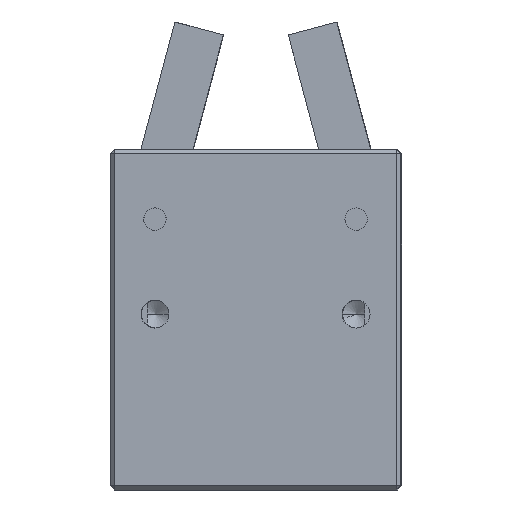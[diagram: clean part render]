
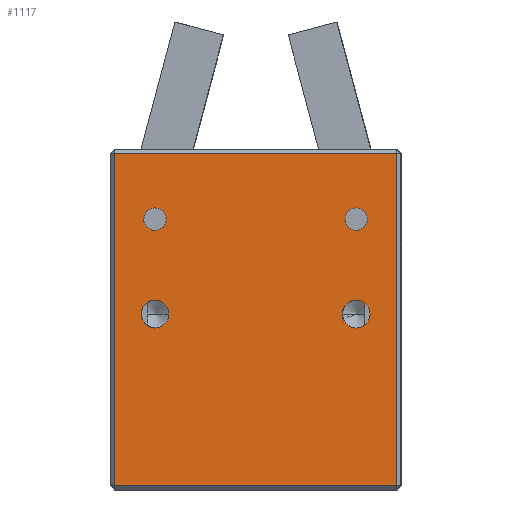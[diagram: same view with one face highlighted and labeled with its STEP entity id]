
A CAD part, left-side view. The second image highlights one B-rep face of the part: STEP entity #1117.
In plain terms, the highlighted planar face has unit normal (-1, 0.005, 0).
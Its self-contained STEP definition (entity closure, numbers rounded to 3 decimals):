
#1082 = EDGE_CURVE ( 'NONE', #13873, #13877, #9762, .T. ) ;
#1084 = ORIENTED_EDGE ( 'NONE', *, *, #1110, .T. ) ;
#1089 = ORIENTED_EDGE ( 'NONE', *, *, #1094, .T. ) ;
#1090 = ORIENTED_EDGE ( 'NONE', *, *, #1082, .F. ) ;
#1091 = EDGE_LOOP ( 'NONE', ( #1084, #1089, #1459, #1446 ) ) ;
#1094 = EDGE_CURVE ( 'NONE', #1169, #1106, #10037, .T. ) ;
#1095 = ORIENTED_EDGE ( 'NONE', *, *, #14164, .T. ) ;
#1101 = ORIENTED_EDGE ( 'NONE', *, *, #1170, .F. ) ;
#1106 = VERTEX_POINT ( 'NONE', #10123 ) ;
#1107 = ORIENTED_EDGE ( 'NONE', *, *, #1114, .T. ) ;
#1108 = ORIENTED_EDGE ( 'NONE', *, *, #13784, .T. ) ;
#1110 = EDGE_CURVE ( 'NONE', #1183, #1169, #10112, .T. ) ;
#1114 = EDGE_CURVE ( 'NONE', #14170, #14165, #10101, .T. ) ;
#1115 = EDGE_LOOP ( 'NONE', ( #1107, #1095 ) ) ;
#1117 = ADVANCED_FACE ( 'NONE', ( #10240, #10249, #10094, #10251, #10092 ), #10091, .F. ) ;
#1128 = EDGE_LOOP ( 'NONE', ( #1145, #1108 ) ) ;
#1133 = EDGE_LOOP ( 'NONE', ( #1090, #1314 ) ) ;
#1138 = EDGE_CURVE ( 'NONE', #13931, #13933, #10173, .T. ) ;
#1145 = ORIENTED_EDGE ( 'NONE', *, *, #1138, .T. ) ;
#1153 = VERTEX_POINT ( 'NONE', #10271 ) ;
#1169 = VERTEX_POINT ( 'NONE', #10386 ) ;
#1170 = EDGE_CURVE ( 'NONE', #15524, #15528, #10339, .T. ) ;
#1183 = VERTEX_POINT ( 'NONE', #10564 ) ;
#1184 = EDGE_LOOP ( 'NONE', ( #1101, #1191 ) ) ;
#1191 = ORIENTED_EDGE ( 'NONE', *, *, #15536, .F. ) ;
#1314 = ORIENTED_EDGE ( 'NONE', *, *, #13878, .F. ) ;
#1428 = EDGE_CURVE ( 'NONE', #1106, #1153, #17461, .T. ) ;
#1429 = EDGE_CURVE ( 'NONE', #1153, #1183, #17450, .T. ) ;
#1446 = ORIENTED_EDGE ( 'NONE', *, *, #1429, .T. ) ;
#1459 = ORIENTED_EDGE ( 'NONE', *, *, #1428, .T. ) ;
#9762 = CIRCLE ( 'NONE', #9968, 2.5 ) ;
#9938 = CARTESIAN_POINT ( 'NONE',  ( 0.23, 43.999, 31.5 ) ) ;
#9965 = DIRECTION ( 'NONE',  ( -0.005, -1., 0. ) ) ;
#9966 = DIRECTION ( 'NONE',  ( -1., 0.005, 0. ) ) ;
#9968 = AXIS2_PLACEMENT_3D ( 'NONE', #9938, #9966, #9965 ) ;
#10022 = DIRECTION ( 'NONE',  ( 0., 0., -1. ) ) ;
#10023 = VECTOR ( 'NONE', #10022, 1000. ) ;
#10025 = CARTESIAN_POINT ( 'NONE',  ( 0.268, 51.249, 61. ) ) ;
#10037 = LINE ( 'NONE', #10025, #10023 ) ;
#10091 = PLANE ( 'NONE',  #10128 ) ;
#10092 = FACE_OUTER_BOUND ( 'NONE', #1091, .T. ) ;
#10094 = FACE_BOUND ( 'NONE', #1133, .T. ) ;
#10098 = DIRECTION ( 'NONE',  ( 0.005, 1., 0. ) ) ;
#10101 = CIRCLE ( 'NONE', #10247, 2. ) ;
#10108 = VECTOR ( 'NONE', #10098, 1000. ) ;
#10111 = CARTESIAN_POINT ( 'NONE',  ( 0., 0., 60.25 ) ) ;
#10112 = LINE ( 'NONE', #10111, #10108 ) ;
#10123 = CARTESIAN_POINT ( 'NONE',  ( 0.268, 51.249, 0.75 ) ) ;
#10128 = AXIS2_PLACEMENT_3D ( 'NONE', #10222, #10221, #10219 ) ;
#10173 = CIRCLE ( 'NONE', #10310, 2. ) ;
#10176 = CARTESIAN_POINT ( 'NONE',  ( 0.23, 43.999, 48.5 ) ) ;
#10183 = DIRECTION ( 'NONE',  ( 1., -0.005, 0. ) ) ;
#10219 = DIRECTION ( 'NONE',  ( 0.005, 1., 0. ) ) ;
#10221 = DIRECTION ( 'NONE',  ( 1., -0.005, 0. ) ) ;
#10222 = CARTESIAN_POINT ( 'NONE',  ( 0., 0., 61. ) ) ;
#10240 = FACE_BOUND ( 'NONE', #1115, .T. ) ;
#10241 = DIRECTION ( 'NONE',  ( 0.005, 1., 0. ) ) ;
#10243 = DIRECTION ( 'NONE',  ( 1., -0.005, 0. ) ) ;
#10244 = CARTESIAN_POINT ( 'NONE',  ( 0.042, 8., 48.5 ) ) ;
#10247 = AXIS2_PLACEMENT_3D ( 'NONE', #10244, #10243, #10241 ) ;
#10249 = FACE_BOUND ( 'NONE', #1128, .T. ) ;
#10251 = FACE_BOUND ( 'NONE', #1184, .T. ) ;
#10271 = CARTESIAN_POINT ( 'NONE',  ( 0.004, 0.75, 0.75 ) ) ;
#10290 = DIRECTION ( 'NONE',  ( 0.005, 1., 0. ) ) ;
#10310 = AXIS2_PLACEMENT_3D ( 'NONE', #10176, #10183, #10290 ) ;
#10339 = CIRCLE ( 'NONE', #10470, 2.5 ) ;
#10386 = CARTESIAN_POINT ( 'NONE',  ( 0.268, 51.249, 60.25 ) ) ;
#10437 = DIRECTION ( 'NONE',  ( -0.005, -1., 0. ) ) ;
#10466 = DIRECTION ( 'NONE',  ( -1., 0.005, 0. ) ) ;
#10468 = CARTESIAN_POINT ( 'NONE',  ( 0.042, 8., 31.5 ) ) ;
#10470 = AXIS2_PLACEMENT_3D ( 'NONE', #10468, #10466, #10437 ) ;
#10564 = CARTESIAN_POINT ( 'NONE',  ( 0.004, 0.75, 60.25 ) ) ;
#13784 = EDGE_CURVE ( 'NONE', #13933, #13931, #25869, .T. ) ;
#13873 = VERTEX_POINT ( 'NONE', #26047 ) ;
#13877 = VERTEX_POINT ( 'NONE', #26043 ) ;
#13878 = EDGE_CURVE ( 'NONE', #13877, #13873, #26031, .T. ) ;
#13931 = VERTEX_POINT ( 'NONE', #26122 ) ;
#13933 = VERTEX_POINT ( 'NONE', #26166 ) ;
#14164 = EDGE_CURVE ( 'NONE', #14165, #14170, #26703, .T. ) ;
#14165 = VERTEX_POINT ( 'NONE', #26704 ) ;
#14170 = VERTEX_POINT ( 'NONE', #26739 ) ;
#15524 = VERTEX_POINT ( 'NONE', #31008 ) ;
#15528 = VERTEX_POINT ( 'NONE', #31102 ) ;
#15536 = EDGE_CURVE ( 'NONE', #15528, #15524, #31137, .T. ) ;
#17447 = DIRECTION ( 'NONE',  ( 0., 0., 1. ) ) ;
#17448 = VECTOR ( 'NONE', #17447, 1000. ) ;
#17449 = CARTESIAN_POINT ( 'NONE',  ( 0.004, 0.75, 61. ) ) ;
#17450 = LINE ( 'NONE', #17449, #17448 ) ;
#17454 = DIRECTION ( 'NONE',  ( -0.005, -1., 0. ) ) ;
#17455 = VECTOR ( 'NONE', #17454, 1000. ) ;
#17456 = CARTESIAN_POINT ( 'NONE',  ( 0., 0., 0.75 ) ) ;
#17461 = LINE ( 'NONE', #17456, #17455 ) ;
#25859 = DIRECTION ( 'NONE',  ( 0.005, 1., 0. ) ) ;
#25860 = DIRECTION ( 'NONE',  ( 1., -0.005, 0. ) ) ;
#25861 = CARTESIAN_POINT ( 'NONE',  ( 0.23, 43.999, 48.5 ) ) ;
#25862 = AXIS2_PLACEMENT_3D ( 'NONE', #25861, #25860, #25859 ) ;
#25869 = CIRCLE ( 'NONE', #25862, 2. ) ;
#26024 = DIRECTION ( 'NONE',  ( -0.005, -1., 0. ) ) ;
#26025 = DIRECTION ( 'NONE',  ( -1., 0.005, 0. ) ) ;
#26026 = CARTESIAN_POINT ( 'NONE',  ( 0.23, 43.999, 31.5 ) ) ;
#26027 = AXIS2_PLACEMENT_3D ( 'NONE', #26026, #26025, #26024 ) ;
#26031 = CIRCLE ( 'NONE', #26027, 2.5 ) ;
#26043 = CARTESIAN_POINT ( 'NONE',  ( 0.243, 46.499, 31.5 ) ) ;
#26047 = CARTESIAN_POINT ( 'NONE',  ( 0.217, 41.499, 31.5 ) ) ;
#26122 = CARTESIAN_POINT ( 'NONE',  ( 0.241, 45.999, 48.5 ) ) ;
#26166 = CARTESIAN_POINT ( 'NONE',  ( 0.22, 41.999, 48.5 ) ) ;
#26692 = DIRECTION ( 'NONE',  ( 1., -0.005, 0. ) ) ;
#26693 = AXIS2_PLACEMENT_3D ( 'NONE', #26717, #26692, #26748 ) ;
#26703 = CIRCLE ( 'NONE', #26693, 2. ) ;
#26704 = CARTESIAN_POINT ( 'NONE',  ( 0.031, 6., 48.5 ) ) ;
#26717 = CARTESIAN_POINT ( 'NONE',  ( 0.042, 8., 48.5 ) ) ;
#26739 = CARTESIAN_POINT ( 'NONE',  ( 0.052, 10., 48.5 ) ) ;
#26748 = DIRECTION ( 'NONE',  ( 0.005, 1., 0. ) ) ;
#31008 = CARTESIAN_POINT ( 'NONE',  ( 0.029, 5.5, 31.5 ) ) ;
#31102 = CARTESIAN_POINT ( 'NONE',  ( 0.055, 10.5, 31.5 ) ) ;
#31133 = DIRECTION ( 'NONE',  ( -0.005, -1., 0. ) ) ;
#31134 = DIRECTION ( 'NONE',  ( -1., 0.005, 0. ) ) ;
#31135 = CARTESIAN_POINT ( 'NONE',  ( 0.042, 8., 31.5 ) ) ;
#31136 = AXIS2_PLACEMENT_3D ( 'NONE', #31135, #31134, #31133 ) ;
#31137 = CIRCLE ( 'NONE', #31136, 2.5 ) ;
